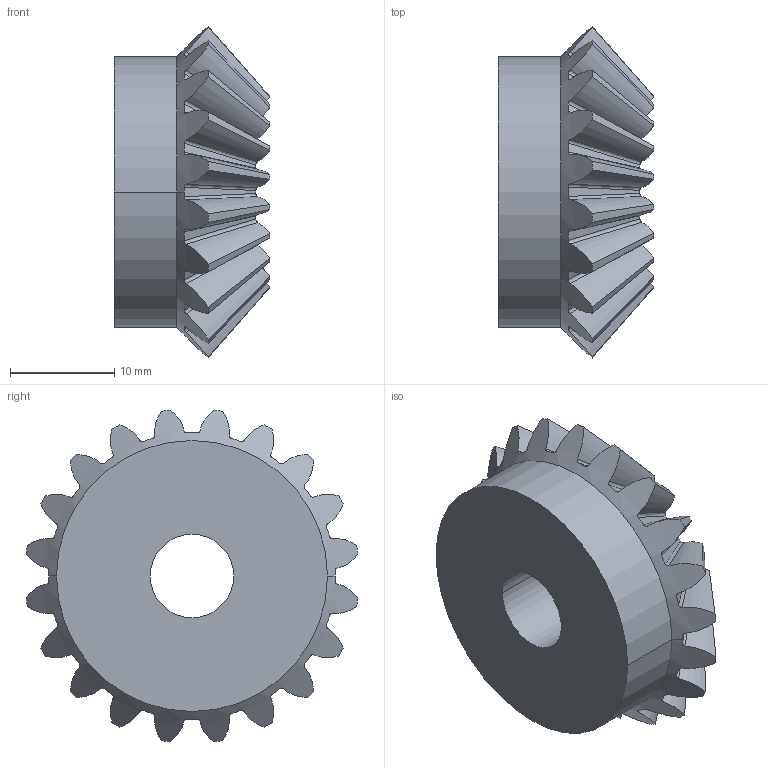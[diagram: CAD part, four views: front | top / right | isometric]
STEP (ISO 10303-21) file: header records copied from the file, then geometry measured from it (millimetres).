
FILE_DESCRIPTION( ('This file contains a STEP AP42 implementation' ,'as created by ZW3D STEP Interface translator.') ,'2;1' );
FILE_NAME( 'zkj-袪喘謫.stp' ,'23 9 3.214435', (''), ('ZWCAD Software Co.'), 'Version 1.0', 'ZW3D to STEP translator', '' );
FILE_SCHEMA(('AUTOMOTIVE_DESIGN { 1 0 10303 214 1 1 1 1 }'));
Length unit declared in the file: millimetre
Products named in the file (2): 0; zkj-袪喘謫
Bounding box: 14.96 x 31.84 x 31.84 mm (x, y, z)
Volume: 6192.4 mm3; surface area: 3029.2 mm2
Topology: 1 solids, 1 shells, 130 faces, 382 edges, 254 vertices
Faces by surface type: bspline 100, cone 24, cylinder 4, plane 2
Entity records: 8048 total; most frequent: CARTESIAN_POINT 5279, ORIENTED_EDGE 764, EDGE_CURVE 382, B_SPLINE_CURVE_WITH_KNOTS 284, VERTEX_POINT 254, DIRECTION 210, EDGE_LOOP 132, FACE_OUTER_BOUND 130
